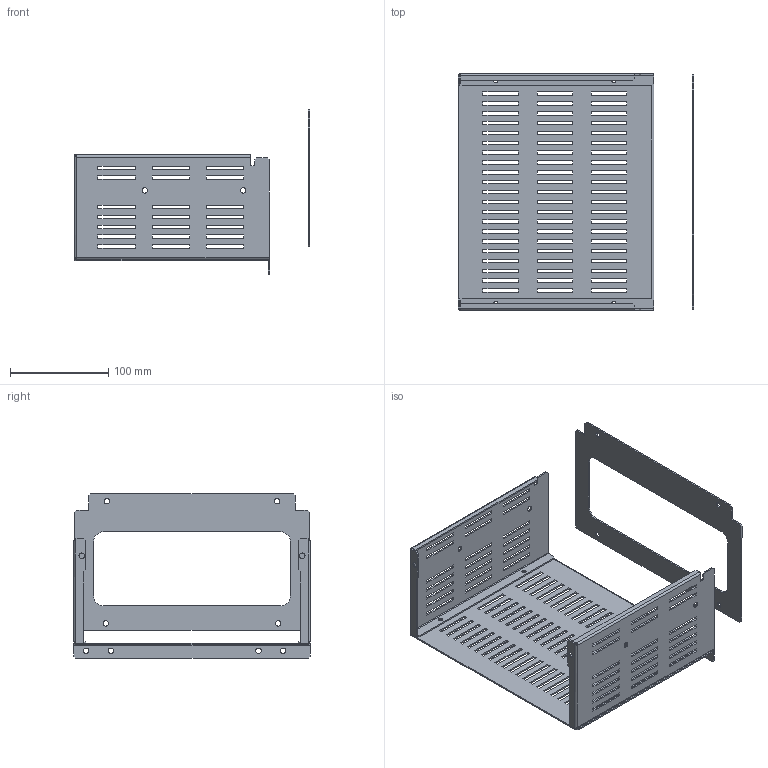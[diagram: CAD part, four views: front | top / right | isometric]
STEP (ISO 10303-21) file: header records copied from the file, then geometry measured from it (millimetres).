
FILE_DESCRIPTION(('CAx-IF Rec.Pracs.---Model Styling and Organization---1.2---2011-12-15','CAx-IF Rec.Pracs.---Geometric and Assembly Validation Properties---4.1---2014-06-16','CAx-IF Rec.Pracs.---PMI Polyline Presentation---2.0---2013-05-24'),'2;1');
FILE_NAME('R5M2W5MST3C.stp','2021-05-05T13:07:00+03:00',(''),(''),'STEP Interface 4.4 by CT CoreTechnologie','3D_Evolution4.4 by CT CoreTechnologie','');
FILE_SCHEMA(('AUTOMOTIVE_DESIGN { 1 0 10303 214 1 1 1 1 }'));
Length unit declared in the file: millimetre
Products named in the file (5): R5M2W5MST3C; RB.1458.00.00.0_-03; RB.1459.00.00.0_-03; RB.1263.00.00.0_-01; RB.1263.00.00.0_-00
Assembly tree (4 placements, depth 2):
  R5M2W5MST3C
    RB.1458.00.00.0_-03
    RB.1459.00.00.0_-03
    RB.1263.00.00.0_-01
    RB.1263.00.00.0_-00
Bounding box: 239 x 240 x 166.75 mm (x, y, z)
Surface area: 225291 mm2 (no closed solid volume)
Topology: 0 solids, 4 shells, 590 faces, 1700 edges, 1118 vertices
Faces by surface type: plane 520, cylinder 62, bspline 8
Entity records: 19931 total; most frequent: CARTESIAN_POINT 3666, ORIENTED_EDGE 3400, DIRECTION 2987, EDGE_CURVE 1700, VECTOR 1573, LINE 1573, VERTEX_POINT 1118, EDGE_LOOP 846
